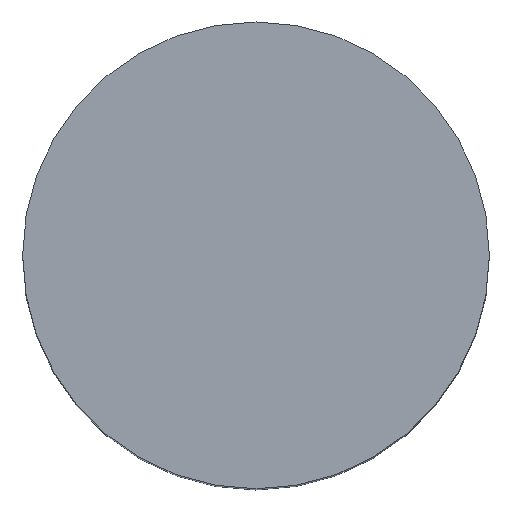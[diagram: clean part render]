
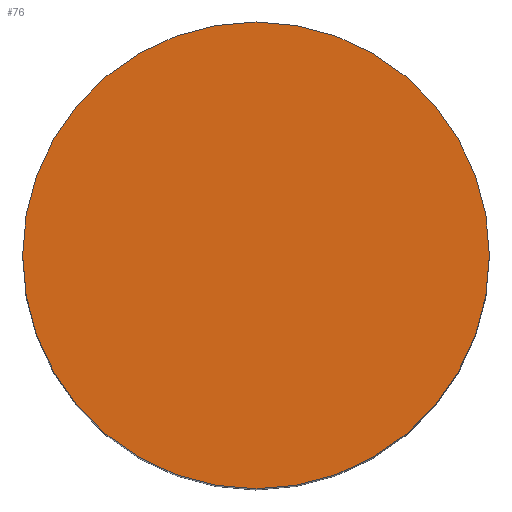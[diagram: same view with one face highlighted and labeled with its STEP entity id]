
A CAD part, top view. The second image highlights one B-rep face of the part: STEP entity #76.
In plain terms, the highlighted planar face has unit normal (0, 0, 1).
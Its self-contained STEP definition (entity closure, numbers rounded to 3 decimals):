
#47 = EDGE_CURVE('',#48,#48,#50,.T.);
#48 = VERTEX_POINT('',#49);
#49 = CARTESIAN_POINT('',(4.,0.,12.));
#50 = CIRCLE('',#51,4.);
#51 = AXIS2_PLACEMENT_3D('',#52,#53,#54);
#52 = CARTESIAN_POINT('',(0.,0.,12.));
#53 = DIRECTION('',(0.,0.,1.));
#54 = DIRECTION('',(1.,0.,-0.));
#76 = ADVANCED_FACE('',(#77),#80,.T.);
#77 = FACE_BOUND('',#78,.T.);
#78 = EDGE_LOOP('',(#79));
#79 = ORIENTED_EDGE('',*,*,#47,.T.);
#80 = PLANE('',#81);
#81 = AXIS2_PLACEMENT_3D('',#82,#83,#84);
#82 = CARTESIAN_POINT('',(0.,0.,12.));
#83 = DIRECTION('',(0.,0.,1.));
#84 = DIRECTION('',(1.,0.,-0.));
